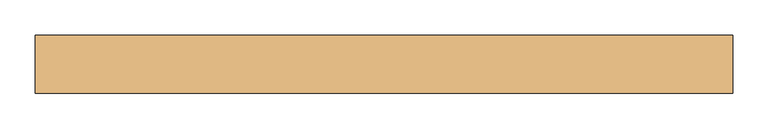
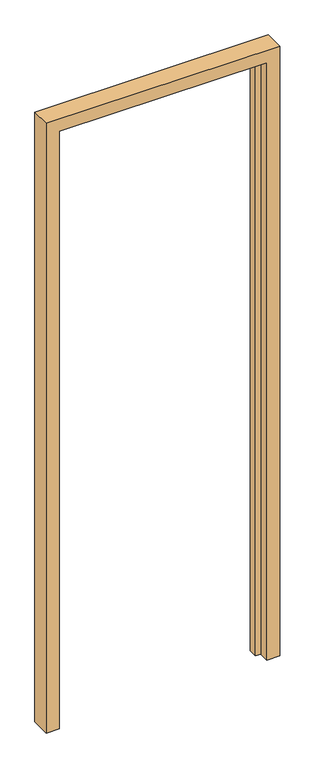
"""IFC4 building model written with IfcOpenShell, lengths in millimetres: door geometry, PNX_PORTE-N-PTH : 85-PTHC55."""

import ifcopenshell
import ifcopenshell.guid

model = None  # the IFC model being written
_history = None  # IfcOwnerHistory: only IFC2X3 demands one
_inside = {}  # id of a spatial element -> (the spatial element, [elements in it])
_under = {}  # id of a project, library or spatial element -> (it, [spatial elements below it])
_declared = {}  # id of a project -> (the project, [libraries it declares])
_typed = {}  # id of a type object -> (the type object, [elements of that type])
_made_of = {}  # id of a material, layer set ... -> (it, [elements and type objects made of it])


def new_model(schema):
    """Start an empty IFC model of exactly this schema.

    Asked for "IFC4X3", IfcOpenShell would pick the latest addendum, in which some entities
    have other attributes; the version numbers below select the first issue.
    IFC2X3 requires an IfcOwnerHistory on every rooted entity: one is made here for all.
    """
    global model, _history
    if schema == "IFC4X3":
        model = ifcopenshell.file(schema_version=(4, 3, 0, 0))
    else:
        model = ifcopenshell.file(schema=schema)
    _inside.clear()
    _under.clear()
    _declared.clear()
    _typed.clear()
    _made_of.clear()
    _history = None
    if model.schema == "IFC2X3":
        org = make("IfcOrganization", Name="unknown")
        user = make(
            "IfcPersonAndOrganization",
            ThePerson=make("IfcPerson", FamilyName="unknown"),
            TheOrganization=org,
        )
        app = make(
            "IfcApplication",
            ApplicationDeveloper=org,
            Version="unknown",
            ApplicationFullName="unknown",
            ApplicationIdentifier="unknown",
        )
        _history = make(
            "IfcOwnerHistory",
            OwningUser=user,
            OwningApplication=app,
            ChangeAction="ADDED",
            CreationDate=0,
        )
    return model


def make(cls, **values):
    """One entity of the class cls with the attributes given. An attribute that is None is left unset."""
    return model.create_entity(
        cls, **{name: value for name, value in values.items() if value is not None}
    )


def rooted(cls, **values):
    """An entity with a GlobalId (a new one), such as an element, a storey or a relation."""
    return make(cls, GlobalId=ifcopenshell.guid.new(), OwnerHistory=_history, **values)


def si_unit(unit_type, name, prefix=None):
    """IfcSIUnit, for example si_unit("LENGTHUNIT", "METRE", prefix="MILLI")."""
    return make("IfcSIUnit", UnitType=unit_type, Prefix=prefix, Name=name)


def assignment(units):
    """IfcUnitAssignment: the units of a project."""
    return None if units is None else make("IfcUnitAssignment", Units=units)


def point(xyz):
    """IfcCartesianPoint."""
    return None if xyz is None else make("IfcCartesianPoint", Coordinates=xyz)


def direction(xyz):
    """IfcDirection."""
    return None if xyz is None else make("IfcDirection", DirectionRatios=xyz)


def frame(location, z_axis=None, x_axis=None):
    """IfcAxis2Placement3D, a coordinate frame: its origin and axes. An axis left out is left unset."""
    return make(
        "IfcAxis2Placement3D",
        Location=point(location),
        Axis=direction(z_axis),
        RefDirection=direction(x_axis),
    )


def origin():
    """The frame at (0, 0, 0) with its axes left unset."""
    return frame((0.0, 0.0, 0.0))


def place(relative_to, where):
    """IfcLocalPlacement: puts the frame where relative to a parent placement (None: the world)."""
    return make(
        "IfcLocalPlacement", PlacementRelTo=relative_to, RelativePlacement=where
    )


def context(
    kind, dimensions, precision=None, world=None, true_north=None, identifier=None
):
    """IfcGeometricRepresentationContext, for example the 3D "Model" context."""
    return make(
        "IfcGeometricRepresentationContext",
        ContextIdentifier=identifier,
        ContextType=kind,
        CoordinateSpaceDimension=dimensions,
        Precision=precision,
        WorldCoordinateSystem=world,
        TrueNorth=true_north,
    )


def project(units=None, contexts=None):
    """IfcProject with its units and contexts."""
    return rooted(
        "IfcProject",
        Name="project",
        RepresentationContexts=contexts,
        UnitsInContext=assignment(units),
    )


def spatial(cls, under=None, at=None, **own):
    """A site, building, storey or space (cls), placed at a placement, below another one or the project."""
    s = rooted(cls, ObjectPlacement=at, **own)
    if under is not None:
        _under.setdefault(under.id(), (under, []))[1].append(s)
    return s


def faces_of(points, faces, orient=None, outer=None):
    """IfcFace entities. A face is a list of loops; a loop is a list of indices into points, from 0.

    orient and outer hold one flag for each loop. By default every Orientation is true, the
    first loop of a face is its IfcFaceOuterBound and the others are IfcFaceBound.
    """
    made = []
    for i, loops in enumerate(faces):
        bounds = []
        for j, loop in enumerate(loops):
            is_outer = j == 0 if outer is None else outer[i][j]
            bounds.append(
                make(
                    "IfcFaceOuterBound" if is_outer else "IfcFaceBound",
                    Bound=make("IfcPolyLoop", Polygon=[points[k] for k in loop]),
                    Orientation=True if orient is None else orient[i][j],
                )
            )
        made.append(make("IfcFace", Bounds=bounds))
    return made


def faceted_brep(points, faces, orient=None, outer=None, voids=None):
    """IfcFacetedBrep: a solid bounded by flat faces; with voids (closed shells), ...WithVoids."""
    shared = [point(p) for p in points]
    hull = make("IfcClosedShell", CfsFaces=faces_of(shared, faces, orient, outer))
    if voids is None:
        return make("IfcFacetedBrep", Outer=hull)
    return make(
        "IfcFacetedBrepWithVoids",
        Outer=hull,
        Voids=[
            make(cls, CfsFaces=faces_of(shared, fs, o, b)) for cls, fs, o, b in voids
        ],
    )


def shape(context_of_items, identifier, shape_type, items):
    """IfcShapeRepresentation: the items that make up one representation, for example the "Body"."""
    return make(
        "IfcShapeRepresentation",
        ContextOfItems=context_of_items,
        RepresentationIdentifier=identifier,
        RepresentationType=shape_type,
        Items=items,
    )


def source(mapping_origin, context_of_items, identifier, shape_type, items):
    """IfcRepresentationMap: a shape defined once, which mapped items show again and again."""
    return make(
        "IfcRepresentationMap",
        MappingOrigin=mapping_origin,
        MappedRepresentation=shape(context_of_items, identifier, shape_type, items),
    )


def transform(
    local_origin,
    x_axis=None,
    y_axis=None,
    z_axis=None,
    scale=None,
    scale2=None,
    scale3=None,
    uniform=True,
):
    """IfcCartesianTransformationOperator3D, or its non-uniform kind. x_axis, y_axis, z_axis: its Axis1, 2, 3."""
    if uniform:
        return make(
            "IfcCartesianTransformationOperator3D",
            Axis1=direction(x_axis),
            Axis2=direction(y_axis),
            LocalOrigin=point(local_origin),
            Scale=scale,
            Axis3=direction(z_axis),
        )
    return make(
        "IfcCartesianTransformationOperator3DnonUniform",
        Axis1=direction(x_axis),
        Axis2=direction(y_axis),
        LocalOrigin=point(local_origin),
        Scale=scale,
        Axis3=direction(z_axis),
        Scale2=scale2,
        Scale3=scale3,
    )


def mapped(mapping_source, mapping_target):
    """IfcMappedItem: shows the shape of a source again, moved by a transform."""
    return make(
        "IfcMappedItem", MappingSource=mapping_source, MappingTarget=mapping_target
    )


def made_of(thing, what):
    """Note that an element or type object is made of a material, layer set ...; save() writes the relation."""
    if what is not None:
        _made_of.setdefault(what.id(), (what, []))[1].append(thing)
    return thing


def element(
    cls,
    number,
    at=None,
    inside=None,
    cuts=None,
    type_object=None,
    material=None,
    context=None,
    identifier="Body",
    shape_type=None,
    held_by="IfcProductDefinitionShape",
    body=None,
    shapes=None,
    **own,
):
    """One element of the class cls, such as IfcWall. Its Tag is "e" and its number.

    at: its placement. inside: the storey or other place that contains it. cuts: it is an
    opening in that element (IfcRelVoidsElement). A single representation is given by context,
    identifier, shape_type and body (its items); several are given by shapes. held_by: the class
    of the entity that holds the representations. save() writes the other relations.
    """
    e = rooted(cls, Tag="e%d" % number, ObjectPlacement=at, **own)
    if body is not None:
        shapes = [shape(context, identifier, shape_type, body)]
    if shapes is not None:
        e.Representation = make(held_by, Representations=shapes)
    if inside is not None:
        _inside.setdefault(inside.id(), (inside, []))[1].append(e)
    if cuts is not None:
        rooted(
            "IfcRelVoidsElement", RelatingBuildingElement=cuts, RelatedOpeningElement=e
        )
    if type_object is not None:
        _typed.setdefault(type_object.id(), (type_object, []))[1].append(e)
    return made_of(e, material)


def aggregate(whole, parts):
    """IfcRelAggregates: a whole, such as a stair, and the parts it consists of."""
    return rooted("IfcRelAggregates", RelatingObject=whole, RelatedObjects=parts)


def save(model, path):
    """Write the relations noted so far, then the file.

    IfcRelAggregates (storeys below a building ...), IfcRelContainedInSpatialStructure (elements
    in a storey), IfcRelDefinesByType, IfcRelAssociatesMaterial and IfcRelDeclares: one each for
    every whole, place, type object, material and project.
    """
    for whole, parts in _under.values():
        aggregate(whole, parts)
    for where, things in _inside.values():
        rooted(
            "IfcRelContainedInSpatialStructure",
            RelatedElements=things,
            RelatingStructure=where,
        )
    for kind, things in _typed.values():
        rooted("IfcRelDefinesByType", RelatedObjects=things, RelatingType=kind)
    for what, things in _made_of.values():
        rooted("IfcRelAssociatesMaterial", RelatedObjects=things, RelatingMaterial=what)
    for by, libraries in _declared.values():
        rooted("IfcRelDeclares", RelatingContext=by, RelatedDefinitions=libraries)
    model.write(path)


def door_ac8f3b1c(model_context):
    return source(origin(), model_context, "Body", "Brep", [
        faceted_brep([(-497.0, -41.5, 0.0), (-497.0, 41.5, 0.0), (-419.5, 41.5, 0.0), (-419.5, 3.0, 0.0), (-442.0, 3.0, 0.0), (-442.0, -41.5, 0.0), (497.0, 41.5, 0.0), (497.0, -41.5, 0.0), (442.0, -41.5, 0.0), (442.0, 3.0, 0.0), (419.5, 3.0, 0.0), (419.5, 41.5, 0.0), (-497.0, -41.5, 2743.0), (-497.0, 41.5, 2743.0), (497.0, 41.5, 2743.0), (419.5, 41.5, 2665.5), (-419.5, 41.5, 2665.5), (-419.5, 3.0, 2665.5), (442.0, 3.0, 2688.0), (-442.0, 3.0, 2688.0), (419.5, 3.0, 2665.5), (-442.0, -41.5, 2688.0), (497.0, -41.5, 2743.0), (442.0, -41.5, 2688.0)], [[[0, 1, 2, 3, 4, 5]], [[6, 7, 8, 9, 10, 11]], [[12, 13, 1, 0]], [[13, 14, 6, 11, 15, 16, 2, 1]], [[16, 17, 3, 2]], [[18, 19, 4, 3, 17, 20, 10, 9]], [[19, 21, 5, 4]], [[22, 12, 0, 5, 21, 23, 8, 7]], [[14, 22, 7, 6]], [[23, 18, 9, 8]], [[20, 15, 11, 10]], [[22, 14, 13, 12]], [[15, 20, 17, 16]], [[21, 19, 18, 23]]]),
    ])


if __name__ == "__main__":
    model = new_model("IFC4")
    model_context = context("Model", 3, world=origin())
    ifc_project = project(units=[si_unit("LENGTHUNIT", "METRE", prefix="MILLI")], contexts=[model_context])
    site = spatial("IfcSite", under=ifc_project)
    building = spatial("IfcBuilding", under=site)
    placement = place(None, origin())
    door_shape = door_ac8f3b1c(model_context)
    element("IfcDoor", 1, ObjectType="PNX_PORTE-N-PTH : 85-PTHC55", at=placement, inside=building, context=model_context, shape_type="MappedRepresentation", body=[
        mapped(door_shape, transform((0.0, 0.0, 0.0), x_axis=(1.0, 0.0, 0.0), y_axis=(0.0, 1.0, 0.0), z_axis=(0.0, 0.0, 1.0))),
    ])
    save(model, "model.ifc")
